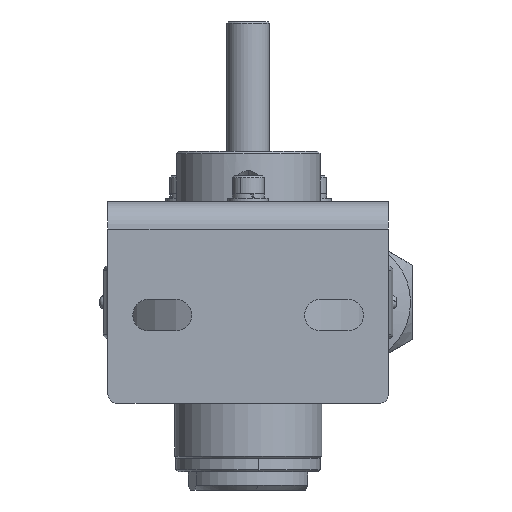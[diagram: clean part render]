
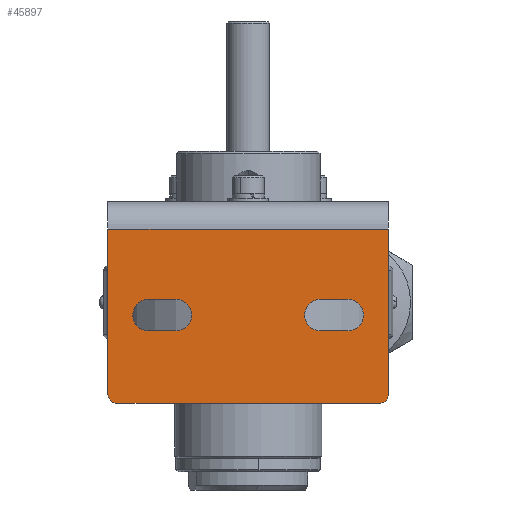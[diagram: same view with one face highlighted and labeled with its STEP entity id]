
A CAD part, front view. The second image highlights one B-rep face of the part: STEP entity #45897.
In plain terms, the highlighted planar face has unit normal (0, -1, 0).
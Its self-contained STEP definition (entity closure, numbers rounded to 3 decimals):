
#7 = DIRECTION ( 'NONE',  ( -1., 0., 0. ) ) ;
#479 = CARTESIAN_POINT ( 'NONE',  ( 16., -43.85, 0.675 ) ) ;
#490 = LINE ( 'NONE', #46241, #14054 ) ;
#677 = AXIS2_PLACEMENT_3D ( 'NONE', #16253, #38002, #20535 ) ;
#814 = CARTESIAN_POINT ( 'NONE',  ( -29., -43.85, -20.325 ) ) ;
#928 = DIRECTION ( 'NONE',  ( -1., 0., 0. ) ) ;
#1169 = ORIENTED_EDGE ( 'NONE', *, *, #21563, .T. ) ;
#1388 = VERTEX_POINT ( 'NONE', #21197 ) ;
#2189 = CARTESIAN_POINT ( 'NONE',  ( 31., -43.85, 16.175 ) ) ;
#2261 = AXIS2_PLACEMENT_3D ( 'NONE', #42791, #35699, #14265 ) ;
#2380 = CARTESIAN_POINT ( 'NONE',  ( -22., -43.85, -6.325 ) ) ;
#2601 = ORIENTED_EDGE ( 'NONE', *, *, #2951, .F. ) ;
#2951 = EDGE_CURVE ( 'NONE', #4840, #1388, #45813, .T. ) ;
#2991 = VERTEX_POINT ( 'NONE', #2380 ) ;
#3035 = VERTEX_POINT ( 'NONE', #31217 ) ;
#3107 = AXIS2_PLACEMENT_3D ( 'NONE', #5062, #30277, #4597 ) ;
#3129 = EDGE_CURVE ( 'NONE', #9326, #31666, #43512, .T. ) ;
#3800 = DIRECTION ( 'NONE',  ( 0., 0., -1. ) ) ;
#3909 = DIRECTION ( 'NONE',  ( 0., -1., 0. ) ) ;
#4100 = DIRECTION ( 'NONE',  ( -1., 0., 0. ) ) ;
#4400 = EDGE_CURVE ( 'NONE', #43651, #3035, #12867, .T. ) ;
#4597 = DIRECTION ( 'NONE',  ( -1., 0., 0. ) ) ;
#4840 = VERTEX_POINT ( 'NONE', #19493 ) ;
#4960 = EDGE_CURVE ( 'NONE', #8330, #25468, #35856, .T. ) ;
#5062 = CARTESIAN_POINT ( 'NONE',  ( 22., -43.85, -2.825 ) ) ;
#5069 = VERTEX_POINT ( 'NONE', #38647 ) ;
#5184 = CARTESIAN_POINT ( 'NONE',  ( 16., -43.85, 0.675 ) ) ;
#6105 = CARTESIAN_POINT ( 'NONE',  ( 29., -43.85, -20.325 ) ) ;
#6560 = ORIENTED_EDGE ( 'NONE', *, *, #4960, .F. ) ;
#7073 = CARTESIAN_POINT ( 'NONE',  ( 31., -43.85, 16.175 ) ) ;
#8330 = VERTEX_POINT ( 'NONE', #5184 ) ;
#8552 = VECTOR ( 'NONE', #22804, 1000. ) ;
#9326 = VERTEX_POINT ( 'NONE', #25522 ) ;
#9419 = CARTESIAN_POINT ( 'NONE',  ( -25.5, -43.85, -2.825 ) ) ;
#9509 = VERTEX_POINT ( 'NONE', #20157 ) ;
#9718 = DIRECTION ( 'NONE',  ( -1., 0., 0. ) ) ;
#9752 = DIRECTION ( 'NONE',  ( 0., -1., 0. ) ) ;
#9811 = DIRECTION ( 'NONE',  ( -1., 0., 0. ) ) ;
#9850 = ORIENTED_EDGE ( 'NONE', *, *, #37501, .F. ) ;
#10989 = DIRECTION ( 'NONE',  ( 0., 0., 1. ) ) ;
#11012 = ORIENTED_EDGE ( 'NONE', *, *, #24408, .T. ) ;
#11216 = ORIENTED_EDGE ( 'NONE', *, *, #3129, .F. ) ;
#11561 = CARTESIAN_POINT ( 'NONE',  ( -22., -43.85, -6.325 ) ) ;
#11968 = ORIENTED_EDGE ( 'NONE', *, *, #44684, .F. ) ;
#12016 = CIRCLE ( 'NONE', #14873, 2. ) ;
#12233 = CARTESIAN_POINT ( 'NONE',  ( -31., -43.85, -22.325 ) ) ;
#12336 = FACE_BOUND ( 'NONE', #26627, .T. ) ;
#12867 = CIRCLE ( 'NONE', #43382, 2. ) ;
#12889 = FACE_OUTER_BOUND ( 'NONE', #44220, .T. ) ;
#13365 = VERTEX_POINT ( 'NONE', #32918 ) ;
#13531 = CARTESIAN_POINT ( 'NONE',  ( -31., -43.85, -20.325 ) ) ;
#14054 = VECTOR ( 'NONE', #9718, 1000. ) ;
#14265 = DIRECTION ( 'NONE',  ( 0., 0., -1. ) ) ;
#14384 = EDGE_CURVE ( 'NONE', #31666, #2991, #41856, .T. ) ;
#14473 = CARTESIAN_POINT ( 'NONE',  ( 31., -43.85, -22.325 ) ) ;
#14620 = DIRECTION ( 'NONE',  ( 0., -1., 0. ) ) ;
#14873 = AXIS2_PLACEMENT_3D ( 'NONE', #814, #36568, #3800 ) ;
#15063 = CARTESIAN_POINT ( 'NONE',  ( -16., -43.85, 0.675 ) ) ;
#15265 = LINE ( 'NONE', #41053, #31042 ) ;
#16053 = LINE ( 'NONE', #7073, #26812 ) ;
#16253 = CARTESIAN_POINT ( 'NONE',  ( 16., -43.85, -2.825 ) ) ;
#16853 = FACE_BOUND ( 'NONE', #26685, .T. ) ;
#16876 = CARTESIAN_POINT ( 'NONE',  ( -22., -43.85, -2.825 ) ) ;
#17737 = VECTOR ( 'NONE', #4100, 1000. ) ;
#18018 = VECTOR ( 'NONE', #10989, 1000. ) ;
#18035 = CARTESIAN_POINT ( 'NONE',  ( 12.5, -43.85, -2.825 ) ) ;
#18098 = VECTOR ( 'NONE', #19621, 1000. ) ;
#18367 = CARTESIAN_POINT ( 'NONE',  ( 16., -43.85, -6.325 ) ) ;
#18473 = AXIS2_PLACEMENT_3D ( 'NONE', #32270, #14620, #43645 ) ;
#18563 = EDGE_CURVE ( 'NONE', #1388, #8330, #18864, .T. ) ;
#18864 = LINE ( 'NONE', #479, #17737 ) ;
#19491 = CIRCLE ( 'NONE', #45832, 3.5 ) ;
#19493 = CARTESIAN_POINT ( 'NONE',  ( 22., -43.85, -6.325 ) ) ;
#19621 = DIRECTION ( 'NONE',  ( 1., 0., 0. ) ) ;
#20157 = CARTESIAN_POINT ( 'NONE',  ( -16., -43.85, -6.325 ) ) ;
#20289 = VERTEX_POINT ( 'NONE', #2189 ) ;
#20345 = VERTEX_POINT ( 'NONE', #13531 ) ;
#20535 = DIRECTION ( 'NONE',  ( -1., 0., 0. ) ) ;
#20657 = EDGE_CURVE ( 'NONE', #20345, #13365, #24371, .T. ) ;
#21134 = DIRECTION ( 'NONE',  ( 0., -1., 0. ) ) ;
#21197 = CARTESIAN_POINT ( 'NONE',  ( 22., -43.85, 0.675 ) ) ;
#21563 = EDGE_CURVE ( 'NONE', #3035, #20289, #29276, .T. ) ;
#22524 = CARTESIAN_POINT ( 'NONE',  ( -16., -43.85, -2.825 ) ) ;
#22804 = DIRECTION ( 'NONE',  ( 0., 0., 1. ) ) ;
#24371 = LINE ( 'NONE', #12233, #8552 ) ;
#24408 = EDGE_CURVE ( 'NONE', #20345, #5069, #12016, .T. ) ;
#24658 = CARTESIAN_POINT ( 'NONE',  ( 16., -43.85, -2.825 ) ) ;
#24813 = ORIENTED_EDGE ( 'NONE', *, *, #37341, .T. ) ;
#25468 = VERTEX_POINT ( 'NONE', #18035 ) ;
#25522 = CARTESIAN_POINT ( 'NONE',  ( -22., -43.85, 0.675 ) ) ;
#26627 = EDGE_LOOP ( 'NONE', ( #6560, #41698, #2601, #35504, #11968 ) ) ;
#26685 = EDGE_LOOP ( 'NONE', ( #11216, #41622, #9850, #29426, #35615 ) ) ;
#26712 = CARTESIAN_POINT ( 'NONE',  ( -22., -43.85, 0.675 ) ) ;
#26812 = VECTOR ( 'NONE', #7, 1000. ) ;
#27819 = DIRECTION ( 'NONE',  ( 0., -1., 0. ) ) ;
#28454 = EDGE_CURVE ( 'NONE', #2991, #9509, #34486, .T. ) ;
#29276 = LINE ( 'NONE', #14473, #18018 ) ;
#29426 = ORIENTED_EDGE ( 'NONE', *, *, #28454, .F. ) ;
#29982 = DIRECTION ( 'NONE',  ( -1., 0., 0. ) ) ;
#30023 = ORIENTED_EDGE ( 'NONE', *, *, #4400, .T. ) ;
#30277 = DIRECTION ( 'NONE',  ( 0., -1., 0. ) ) ;
#31042 = VECTOR ( 'NONE', #41701, 1000. ) ;
#31217 = CARTESIAN_POINT ( 'NONE',  ( 31., -43.85, -20.325 ) ) ;
#31346 = AXIS2_PLACEMENT_3D ( 'NONE', #24658, #27819, #38807 ) ;
#31666 = VERTEX_POINT ( 'NONE', #9419 ) ;
#32270 = CARTESIAN_POINT ( 'NONE',  ( -22., -43.85, -2.825 ) ) ;
#32918 = CARTESIAN_POINT ( 'NONE',  ( -31., -43.85, 16.175 ) ) ;
#33860 = VERTEX_POINT ( 'NONE', #15063 ) ;
#33988 = EDGE_CURVE ( 'NONE', #37863, #4840, #15265, .T. ) ;
#34486 = LINE ( 'NONE', #11561, #18098 ) ;
#35256 = ORIENTED_EDGE ( 'NONE', *, *, #43496, .F. ) ;
#35504 = ORIENTED_EDGE ( 'NONE', *, *, #33988, .F. ) ;
#35615 = ORIENTED_EDGE ( 'NONE', *, *, #14384, .F. ) ;
#35699 = DIRECTION ( 'NONE',  ( 0., -1., 0. ) ) ;
#35856 = CIRCLE ( 'NONE', #31346, 3.5 ) ;
#36568 = DIRECTION ( 'NONE',  ( 0., -1., 0. ) ) ;
#37341 = EDGE_CURVE ( 'NONE', #20289, #13365, #16053, .T. ) ;
#37501 = EDGE_CURVE ( 'NONE', #9509, #33860, #19491, .T. ) ;
#37863 = VERTEX_POINT ( 'NONE', #18367 ) ;
#38002 = DIRECTION ( 'NONE',  ( 0., -1., 0. ) ) ;
#38647 = CARTESIAN_POINT ( 'NONE',  ( -29., -43.85, -22.325 ) ) ;
#38778 = VECTOR ( 'NONE', #29982, 1000. ) ;
#38807 = DIRECTION ( 'NONE',  ( -1., 0., 0. ) ) ;
#39335 = LINE ( 'NONE', #26712, #38778 ) ;
#39629 = PLANE ( 'NONE',  #2261 ) ;
#41053 = CARTESIAN_POINT ( 'NONE',  ( 16., -43.85, -6.325 ) ) ;
#41622 = ORIENTED_EDGE ( 'NONE', *, *, #43786, .F. ) ;
#41698 = ORIENTED_EDGE ( 'NONE', *, *, #18563, .F. ) ;
#41701 = DIRECTION ( 'NONE',  ( 1., 0., 0. ) ) ;
#41856 = CIRCLE ( 'NONE', #18473, 3.5 ) ;
#41923 = DIRECTION ( 'NONE',  ( 0., 0., -1. ) ) ;
#42162 = AXIS2_PLACEMENT_3D ( 'NONE', #16876, #21134, #9811 ) ;
#42791 = CARTESIAN_POINT ( 'NONE',  ( 31., -43.85, -22.325 ) ) ;
#43000 = ORIENTED_EDGE ( 'NONE', *, *, #20657, .F. ) ;
#43382 = AXIS2_PLACEMENT_3D ( 'NONE', #6105, #9752, #41923 ) ;
#43428 = CARTESIAN_POINT ( 'NONE',  ( 29., -43.85, -22.325 ) ) ;
#43496 = EDGE_CURVE ( 'NONE', #43651, #5069, #490, .T. ) ;
#43512 = CIRCLE ( 'NONE', #42162, 3.5 ) ;
#43645 = DIRECTION ( 'NONE',  ( -1., 0., 0. ) ) ;
#43651 = VERTEX_POINT ( 'NONE', #43428 ) ;
#43786 = EDGE_CURVE ( 'NONE', #33860, #9326, #39335, .T. ) ;
#44220 = EDGE_LOOP ( 'NONE', ( #43000, #11012, #35256, #30023, #1169, #24813 ) ) ;
#44684 = EDGE_CURVE ( 'NONE', #25468, #37863, #45478, .T. ) ;
#45478 = CIRCLE ( 'NONE', #677, 3.5 ) ;
#45813 = CIRCLE ( 'NONE', #3107, 3.5 ) ;
#45832 = AXIS2_PLACEMENT_3D ( 'NONE', #22524, #3909, #928 ) ;
#45897 = ADVANCED_FACE ( 'NONE', ( #16853, #12336, #12889 ), #39629, .T. ) ;
#46241 = CARTESIAN_POINT ( 'NONE',  ( 31., -43.85, -22.325 ) ) ;
